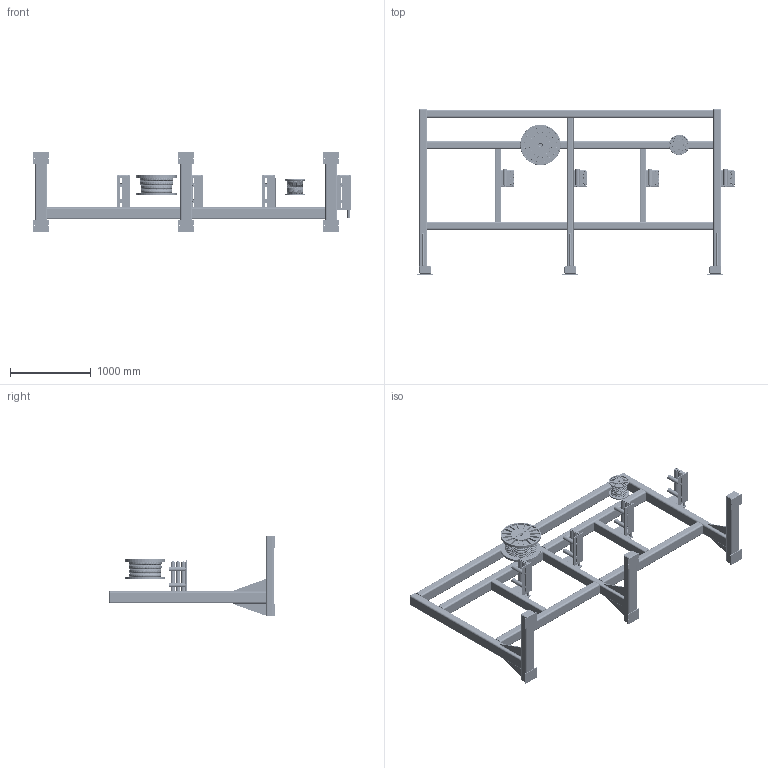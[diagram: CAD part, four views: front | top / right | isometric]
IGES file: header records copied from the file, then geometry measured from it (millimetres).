
Start section: SolidWorks IGES file using analytic representation for surfaces
Global section: file name: U:\Möcker Lena\Drahtablaufgestell\.Abgabe_20260617\Drahtgestell\IGES\Baugruppe Drahtablaufgestell_20260617.IGS; native system: SolidWorks 2022; preprocessor: SolidWorks 2022; author: dorian.block; date: 260617.095507; units: millimetre
Bounding box: 3941.95 x 2055 x 1000 mm (x, y, z)
Surface area: 26343635.8 mm2 (no closed solid volume)
Topology: 0 solids, 0 shells, 7872 faces, 105328 edges, 104752 vertices
Faces by surface type: revolution 4100, bspline 3772
